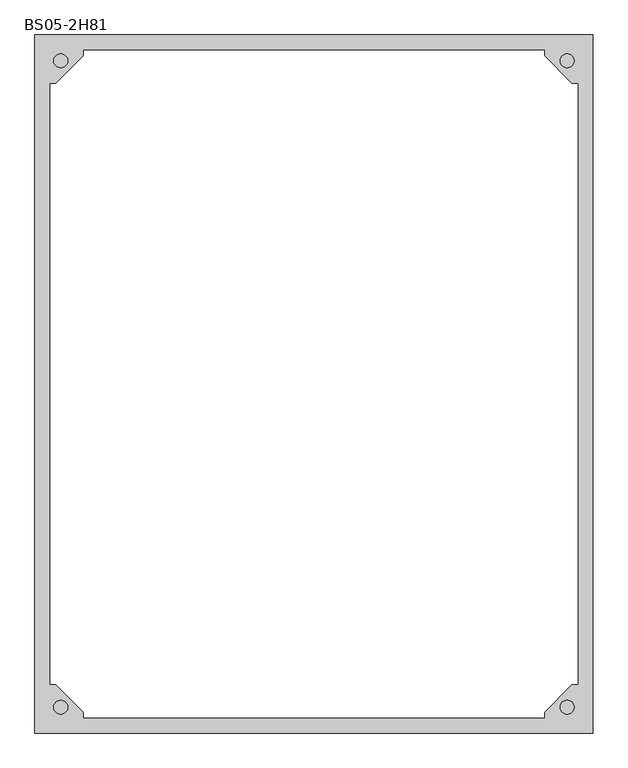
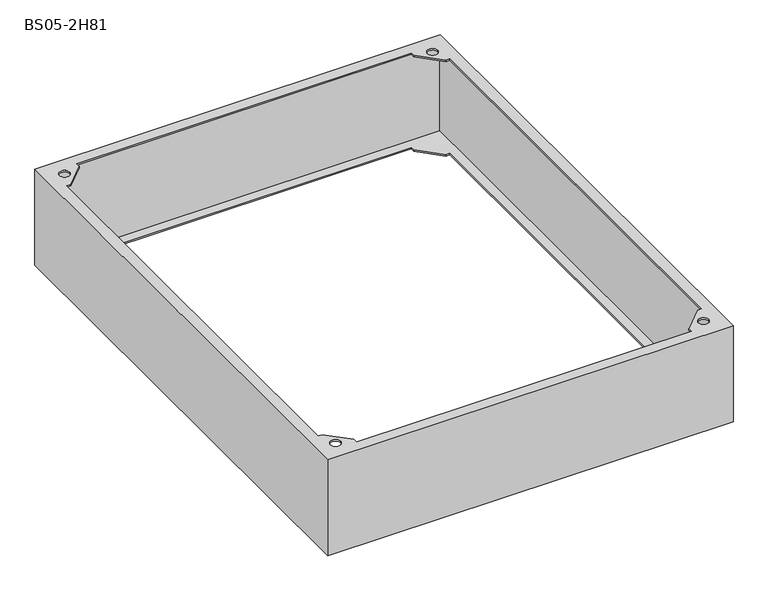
"""IFC4 building model written with IfcOpenShell, lengths in millimetres: proxy geometry, Цоколь для напольных шкафов : BS05-2H81."""

from ifc_helpers import new_model, si_unit, frame, origin, place, context, project, spatial, polyline, circle_curve, source, transform, mapped, element, save
from ifc_brep_helpers import plane_surface, revolved_surface, advanced_brep


def bs05_2h81_4a389308(model_context):
    return source(origin(), model_context, "Body", "AdvancedBrep", [
        advanced_brep(
        [(400.0, -500.0, 200.0), (400.0, -500.0, 197.0), (400.0, -500.0, 3.0), (400.0, -500.0, 0.0), (400.0, 500.0, 0.0), (400.0, 500.0, 3.0), (400.0, 500.0, 197.0), (400.0, 500.0, 200.0), (378.0, 430.0, 0.0), (378.0, -430.0, 0.0), (378.0, -430.0, 3.0), (378.0, 430.0, 3.0), (397.0, 497.0, 197.0), (397.0, 497.0, 3.0), (397.0, -497.0, 3.0), (397.0, -497.0, 197.0), (378.0, 430.0, 197.0), (378.0, -430.0, 197.0), (378.0, -430.0, 200.0), (378.0, 430.0, 200.0), (-400.0, -500.0, 200.0), (-400.0, -500.0, 197.0), (-400.0, -500.0, 3.0), (-400.0, -500.0, 0.0), (330.0, -478.0, 0.0), (-330.0, -478.0, 0.0), (-330.0, -478.0, 3.0), (330.0, -478.0, 3.0), (-397.0, -497.0, 3.0), (-397.0, -497.0, 197.0), (330.0, -478.0, 197.0), (-330.0, -478.0, 197.0), (-330.0, -478.0, 200.0), (330.0, -478.0, 200.0), (-400.0, 500.0, 200.0), (-400.0, 500.0, 197.0), (-400.0, 500.0, 3.0), (-400.0, 500.0, 0.0), (-378.0, -430.0, 0.0), (-378.0, 430.0, 0.0), (-378.0, 430.0, 3.0), (-378.0, -430.0, 3.0), (-397.0, 497.0, 3.0), (-397.0, 497.0, 197.0), (-378.0, -430.0, 197.0), (-378.0, 430.0, 197.0), (-378.0, 430.0, 200.0), (-378.0, -430.0, 200.0), (-330.0, -470.0, 200.0), (-370.0, -430.0, 200.0), (-370.0, 430.0, 200.0), (-330.0, 470.0, 200.0), (-330.0, 478.0, 200.0), (330.0, 478.0, 200.0), (330.0, 470.0, 200.0), (370.0, 430.0, 200.0), (370.0, -430.0, 200.0), (330.0, -470.0, 200.0), (-352.9289322, -462.9289322, 200.0), (-372.9289322, -462.9289322, 200.0), (372.9289322, -462.9289322, 200.0), (352.9289322, -462.9289322, 200.0), (-352.9289322, 462.9289322, 200.0), (-372.9289322, 462.9289322, 200.0), (372.9289322, 462.9289322, 200.0), (352.9289322, 462.9289322, 200.0), (370.0, 430.0, 0.0), (330.0, 470.0, 0.0), (330.0, 478.0, 0.0), (-330.0, 478.0, 0.0), (-330.0, 470.0, 0.0), (-370.0, 430.0, 0.0), (-370.0, -430.0, 0.0), (-330.0, -470.0, 0.0), (330.0, -470.0, 0.0), (370.0, -430.0, 0.0), (330.0, 478.0, 3.0), (-330.0, 478.0, 3.0), (370.0, -430.0, 3.0), (330.0, -470.0, 3.0), (-330.0, -470.0, 3.0), (-370.0, -430.0, 3.0), (-370.0, 430.0, 3.0), (-330.0, 470.0, 3.0), (330.0, 470.0, 3.0), (370.0, 430.0, 3.0), (-370.0, -430.0, 197.0), (-330.0, -470.0, 197.0), (330.0, -470.0, 197.0), (370.0, -430.0, 197.0), (370.0, 430.0, 197.0), (330.0, 470.0, 197.0), (330.0, 478.0, 197.0), (-330.0, 478.0, 197.0), (-330.0, 470.0, 197.0), (-370.0, 430.0, 197.0), (-352.9289322, -462.9289322, 197.0), (-372.9289322, -462.9289322, 197.0), (372.9289322, -462.9289322, 197.0), (352.9289322, -462.9289322, 197.0), (-352.9289322, 462.9289322, 197.0), (-372.9289322, 462.9289322, 197.0), (372.9289322, 462.9289322, 197.0), (352.9289322, 462.9289322, 197.0)],
        [
            (0, 1),
            (1, 2),
            (2, 3),
            (3, 4),
            (4, 5),
            (5, 6),
            (6, 7),
            (7, 0),
            (8, 9),
            (9, 10),
            (10, 11),
            (11, 8),
            (12, 13),
            (13, 14),
            (14, 15),
            (15, 12),
            (16, 17),
            (17, 18),
            (18, 19),
            (19, 16),
            (0, 20),
            (20, 21),
            (21, 22),
            (22, 23),
            (23, 3),
            (24, 25),
            (25, 26),
            (26, 27),
            (27, 24),
            (14, 28),
            (28, 29),
            (29, 15),
            (30, 31),
            (31, 32),
            (32, 33),
            (33, 30),
            (20, 34),
            (34, 35),
            (35, 36),
            (36, 37),
            (37, 23),
            (38, 39),
            (39, 40),
            (40, 41),
            (41, 38),
            (28, 42),
            (42, 43),
            (43, 29),
            (44, 45),
            (45, 46),
            (46, 47),
            (47, 44),
            (7, 34),
            (48, 49),
            (49, 47),
            (46, 50),
            (50, 51),
            (51, 52),
            (52, 53),
            (53, 54),
            (54, 55),
            (55, 19),
            (18, 56),
            (56, 57),
            (57, 33),
            (32, 48),
            (58, 59, circle_curve(frame((-362.9289322, -462.9289322, 200.0), z_axis=(0.0, 0.0, -1.0), x_axis=(-1.0, 0.0, 0.0)), 10.0)),
            (59, 58, circle_curve(frame((-362.9289322, -462.9289322, 200.0), z_axis=(0.0, 0.0, -1.0), x_axis=(-1.0, 0.0, 0.0)), 10.0)),
            (60, 61, circle_curve(frame((362.9289322, -462.9289322, 200.0), z_axis=(0.0, 0.0, -1.0), x_axis=(-1.0, 0.0, 0.0)), 10.0)),
            (61, 60, circle_curve(frame((362.9289322, -462.9289322, 200.0), z_axis=(0.0, 0.0, -1.0), x_axis=(-1.0, 0.0, 0.0)), 10.0)),
            (62, 63, circle_curve(frame((-362.9289322, 462.9289322, 200.0), z_axis=(0.0, 0.0, -1.0), x_axis=(-1.0, 0.0, 0.0)), 10.0)),
            (63, 62, circle_curve(frame((-362.9289322, 462.9289322, 200.0), z_axis=(0.0, 0.0, -1.0), x_axis=(-1.0, 0.0, 0.0)), 10.0)),
            (64, 65, circle_curve(frame((362.9289322, 462.9289322, 200.0), z_axis=(0.0, 0.0, -1.0), x_axis=(-1.0, 0.0, 0.0)), 10.0)),
            (65, 64, circle_curve(frame((362.9289322, 462.9289322, 200.0), z_axis=(0.0, 0.0, -1.0), x_axis=(-1.0, 0.0, 0.0)), 10.0)),
            (4, 37),
            (8, 66),
            (66, 67),
            (67, 68),
            (68, 69),
            (69, 70),
            (70, 71),
            (71, 39),
            (38, 72),
            (72, 73),
            (73, 25),
            (24, 74),
            (74, 75),
            (75, 9),
            (68, 76),
            (76, 77),
            (77, 69),
            (13, 42),
            (10, 78),
            (78, 79),
            (79, 27),
            (26, 80),
            (80, 81),
            (81, 41),
            (40, 82),
            (82, 83),
            (83, 77),
            (76, 84),
            (84, 85),
            (85, 11),
            (12, 43),
            (86, 87),
            (87, 31),
            (30, 88),
            (88, 89),
            (89, 17),
            (16, 90),
            (90, 91),
            (91, 92),
            (92, 93),
            (93, 94),
            (94, 95),
            (95, 45),
            (44, 86),
            (96, 97, circle_curve(frame((-362.9289322, -462.9289322, 197.0), z_axis=(0.0, 0.0, 1.0), x_axis=(-1.0, 0.0, 0.0)), 10.0)),
            (97, 96, circle_curve(frame((-362.9289322, -462.9289322, 197.0), z_axis=(0.0, 0.0, 1.0), x_axis=(-1.0, 0.0, 0.0)), 10.0)),
            (98, 99, circle_curve(frame((362.9289322, -462.9289322, 197.0), z_axis=(0.0, 0.0, 1.0), x_axis=(-1.0, 0.0, 0.0)), 10.0)),
            (99, 98, circle_curve(frame((362.9289322, -462.9289322, 197.0), z_axis=(0.0, 0.0, 1.0), x_axis=(-1.0, 0.0, 0.0)), 10.0)),
            (100, 101, circle_curve(frame((-362.9289322, 462.9289322, 197.0), z_axis=(0.0, 0.0, 1.0), x_axis=(-1.0, 0.0, 0.0)), 10.0)),
            (101, 100, circle_curve(frame((-362.9289322, 462.9289322, 197.0), z_axis=(0.0, 0.0, 1.0), x_axis=(-1.0, 0.0, 0.0)), 10.0)),
            (102, 103, circle_curve(frame((362.9289322, 462.9289322, 197.0), z_axis=(0.0, 0.0, 1.0), x_axis=(-1.0, 0.0, 0.0)), 10.0)),
            (103, 102, circle_curve(frame((362.9289322, 462.9289322, 197.0), z_axis=(0.0, 0.0, 1.0), x_axis=(-1.0, 0.0, 0.0)), 10.0)),
            (52, 93),
            (92, 53),
            (87, 48),
            (86, 49),
            (89, 56),
            (88, 57),
            (95, 50),
            (94, 51),
            (91, 54),
            (90, 55),
            (58, 96),
            (97, 59),
            (60, 98),
            (99, 61),
            (62, 100),
            (101, 63),
            (64, 102),
            (103, 65),
            (73, 80),
            (72, 81),
            (75, 78),
            (74, 79),
            (71, 82),
            (70, 83),
            (67, 84),
            (66, 85),
        ],
        [
            plane_surface(frame((400.0, 500.0, 200.0), z_axis=(1.0, 0.0, 0.0), x_axis=(0.0, -1.0, 0.0))),
            plane_surface(frame((378.0, 478.0, 0.0), z_axis=(-1.0, 0.0, 0.0), x_axis=(0.0, -1.0, 0.0))),
            plane_surface(frame((397.0, 497.0, 3.0), z_axis=(-1.0, 0.0, 0.0), x_axis=(0.0, -1.0, 0.0))),
            plane_surface(frame((378.0, 478.0, 197.0), z_axis=(-1.0, 0.0, 0.0), x_axis=(0.0, -1.0, 0.0))),
            plane_surface(frame((400.0, -500.0, 200.0), z_axis=(0.0, -1.0, 0.0), x_axis=(-1.0, 0.0, 0.0))),
            plane_surface(frame((378.0, -478.0, 0.0), z_axis=(0.0, 1.0, 0.0), x_axis=(-1.0, 0.0, 0.0))),
            plane_surface(frame((397.0, -497.0, 3.0), z_axis=(0.0, 1.0, 0.0), x_axis=(-1.0, 0.0, 0.0))),
            plane_surface(frame((378.0, -478.0, 197.0), z_axis=(0.0, 1.0, 0.0), x_axis=(-1.0, 0.0, 0.0))),
            plane_surface(frame((-400.0, -500.0, 200.0), z_axis=(-1.0, 0.0, 0.0), x_axis=(0.0, 1.0, 0.0))),
            plane_surface(frame((-378.0, -478.0, 0.0), z_axis=(1.0, 0.0, 0.0), x_axis=(0.0, 1.0, 0.0))),
            plane_surface(frame((-397.0, -497.0, 3.0), z_axis=(1.0, 0.0, 0.0), x_axis=(0.0, 1.0, 0.0))),
            plane_surface(frame((-378.0, -478.0, 197.0), z_axis=(1.0, 0.0, 0.0), x_axis=(0.0, 1.0, 0.0))),
            plane_surface(frame((-378.0, 478.0, 200.0), z_axis=(0.0, 0.0, 1.0), x_axis=(1.0, 0.0, 0.0))),
            plane_surface(frame((-400.0, 500.0, 200.0), z_axis=(0.0, 1.0, 0.0), x_axis=(1.0, 0.0, 0.0))),
            plane_surface(frame((-400.0, 500.0, 0.0), z_axis=(0.0, 0.0, -1.0), x_axis=(1.0, 0.0, 0.0))),
            plane_surface(frame((-378.0, 478.0, 0.0), z_axis=(0.0, -1.0, 0.0), x_axis=(1.0, 0.0, 0.0))),
            plane_surface(frame((-378.0, 478.0, 3.0), z_axis=(0.0, 0.0, 1.0), x_axis=(1.0, 0.0, 0.0))),
            plane_surface(frame((-397.0, 497.0, 3.0), z_axis=(0.0, -1.0, 0.0), x_axis=(1.0, 0.0, 0.0))),
            plane_surface(frame((-397.0, 497.0, 197.0), z_axis=(0.0, 0.0, -1.0), x_axis=(1.0, 0.0, 0.0))),
            plane_surface(frame((-378.0, 478.0, 197.0), z_axis=(0.0, -1.0, 0.0), x_axis=(1.0, 0.0, 0.0))),
            plane_surface(frame((-330.0, -500.0, 200.0), z_axis=(1.0, 0.0, 0.0), x_axis=(0.0, 0.0, -1.0))),
            plane_surface(frame((-330.0, -470.0, 200.0), z_axis=(0.7071067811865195, 0.7071067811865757, 0.0), x_axis=(0.0, 0.0, -1.0))),
            plane_surface(frame((-370.0, -430.0, 200.0), z_axis=(0.0, 1.0, 0.0), x_axis=(0.0, 0.0, -1.0))),
            plane_surface(frame((400.0, -430.0, 200.0), z_axis=(0.0, 1.0, 0.0), x_axis=(0.0, 0.0, -1.0))),
            plane_surface(frame((370.0, -430.0, 200.0), z_axis=(-0.7071067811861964, 0.7071067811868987, 0.0), x_axis=(0.0, 0.0, -1.0))),
            plane_surface(frame((330.0, -470.0, 200.0), z_axis=(-1.0, 0.0, 0.0), x_axis=(0.0, 0.0, -1.0))),
            plane_surface(frame((-400.0, 430.0, 200.0), z_axis=(0.0, -1.0, 0.0), x_axis=(0.0, 0.0, -1.0))),
            plane_surface(frame((-370.0, 430.0, 200.0), z_axis=(0.7071067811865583, -0.7071067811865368, 0.0), x_axis=(0.0, 0.0, -1.0))),
            plane_surface(frame((-330.0, 470.0, 200.0), z_axis=(1.0, 0.0, 0.0), x_axis=(0.0, 0.0, -1.0))),
            plane_surface(frame((330.0, 500.0, 200.0), z_axis=(-1.0, 0.0, 0.0), x_axis=(0.0, 0.0, -1.0))),
            plane_surface(frame((330.0, 470.0, 200.0), z_axis=(-0.7071067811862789, -0.7071067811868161, 0.0), x_axis=(0.0, 0.0, -1.0))),
            plane_surface(frame((370.0, 430.0, 200.0), z_axis=(0.0, -1.0, 0.0), x_axis=(0.0, 0.0, -1.0))),
            revolved_surface(polyline([(-372.9289322, -462.9289322, 197.0), (-372.9289322, -462.9289322, 200.0)]), (-362.9289322, -462.9289322, 200.0), (0.0, 0.0, -1.0)),
            revolved_surface(polyline([(352.9289322, -462.9289322, 197.0), (352.9289322, -462.9289322, 200.0)]), (362.9289322, -462.9289322, 200.0), (0.0, 0.0, -1.0)),
            revolved_surface(polyline([(-372.9289322, 462.9289322, 197.0), (-372.9289322, 462.9289322, 200.0)]), (-362.9289322, 462.9289322, 200.0), (0.0, 0.0, -1.0)),
            revolved_surface(polyline([(352.9289322, 462.9289322, 197.0), (352.9289322, 462.9289322, 200.0)]), (362.9289322, 462.9289322, 200.0), (0.0, 0.0, -1.0)),
            plane_surface(frame((-330.0, -500.0, 3.0), z_axis=(1.0, 0.0, 0.0), x_axis=(0.0, 0.0, -1.0))),
            plane_surface(frame((-330.0, -470.0, 3.0), z_axis=(0.7071067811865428, 0.7071067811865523, 0.0), x_axis=(0.0, 0.0, -1.0))),
            plane_surface(frame((-370.0, -430.0, 3.0), z_axis=(0.0, 1.0, 0.0), x_axis=(0.0, 0.0, -1.0))),
            plane_surface(frame((400.0, -430.0, 3.0), z_axis=(0.0, 1.0, 0.0), x_axis=(0.0, 0.0, -1.0))),
            plane_surface(frame((370.0, -430.0, 3.0), z_axis=(-0.7071067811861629, 0.7071067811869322, 0.0), x_axis=(0.0, 0.0, -1.0))),
            plane_surface(frame((330.0, -470.0, 3.0), z_axis=(-1.0, 0.0, 0.0), x_axis=(0.0, 0.0, -1.0))),
            plane_surface(frame((-400.0, 430.0, 3.0), z_axis=(0.0, -1.0, 0.0), x_axis=(0.0, 0.0, -1.0))),
            plane_surface(frame((-370.0, 430.0, 3.0), z_axis=(0.7071067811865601, -0.7071067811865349, 0.0), x_axis=(0.0, 0.0, -1.0))),
            plane_surface(frame((-330.0, 470.0, 3.0), z_axis=(1.0, 0.0, 0.0), x_axis=(0.0, 0.0, -1.0))),
            plane_surface(frame((330.0, 500.0, 3.0), z_axis=(-1.0, 0.0, 0.0), x_axis=(0.0, 0.0, -1.0))),
            plane_surface(frame((330.0, 470.0, 3.0), z_axis=(-0.7071067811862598, -0.7071067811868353, 0.0), x_axis=(0.0, 0.0, -1.0))),
            plane_surface(frame((370.0, 430.0, 3.0), z_axis=(0.0, -1.0, 0.0), x_axis=(0.0, 0.0, -1.0))),
        ],
        [
            (0, [[1, 2, 3, 4, 5, 6, 7, 8]]),
            (1, [[9, 10, 11, 12]]),
            (2, [[13, 14, 15, 16]]),
            (3, [[17, 18, 19, 20]]),
            (4, [[-1, 21, 22, 23, 24, 25, -3, -2]]),
            (5, [[26, 27, 28, 29]]),
            (6, [[-15, 30, 31, 32]]),
            (7, [[33, 34, 35, 36]]),
            (8, [[-22, 37, 38, 39, 40, 41, -24, -23]]),
            (9, [[42, 43, 44, 45]]),
            (10, [[-31, 46, 47, 48]]),
            (11, [[49, 50, 51, 52]]),
            (12, [[-8, 53, -37, -21], [54, 55, -51, 56, 57, 58, 59, 60, 61, 62, -19, 63, 64, 65, -35, 66], [67, 68], [69, 70], [71, 72], [73, 74]]),
            (13, [[-38, -53, -7, -6, -5, 75, -40, -39]]),
            (14, [[-4, -25, -41, -75], [-9, 76, 77, 78, 79, 80, 81, 82, -42, 83, 84, 85, -26, 86, 87, 88]]),
            (15, [[-79, 89, 90, 91]]),
            (16, [[-14, 92, -46, -30], [-11, 93, 94, 95, -28, 96, 97, 98, -44, 99, 100, 101, -90, 102, 103, 104]]),
            (17, [[-92, -13, 105, -47]]),
            (18, [[-32, -48, -105, -16], [106, 107, -33, 108, 109, 110, -17, 111, 112, 113, 114, 115, 116, 117, -49, 118], [119, 120], [121, 122], [123, 124], [125, 126]]),
            (19, [[-59, 127, -114, 128]]),
            (20, [[129, -66, -34, -107]]),
            (21, [[-54, -129, -106, 130]]),
            (22, [[-130, -118, -52, -55]]),
            (23, [[131, -63, -18, -110]]),
            (24, [[-64, -131, -109, 132]]),
            (25, [[-132, -108, -36, -65]]),
            (26, [[133, -56, -50, -117]]),
            (27, [[-57, -133, -116, 134]]),
            (28, [[-134, -115, -127, -58]]),
            (29, [[135, -60, -128, -113]]),
            (30, [[-61, -135, -112, 136]]),
            (31, [[-136, -111, -20, -62]]),
            (32, [[-67, 137, -120, 138]]),
            (32, [[-68, -138, -119, -137]]),
            (33, [[-69, 139, -122, 140]]),
            (33, [[-70, -140, -121, -139]]),
            (34, [[-71, 141, -124, 142]]),
            (34, [[-72, -142, -123, -141]]),
            (35, [[-73, 143, -126, 144]]),
            (35, [[-74, -144, -125, -143]]),
            (36, [[145, -96, -27, -85]]),
            (37, [[-97, -145, -84, 146]]),
            (38, [[-146, -83, -45, -98]]),
            (39, [[147, -93, -10, -88]]),
            (40, [[-94, -147, -87, 148]]),
            (41, [[-148, -86, -29, -95]]),
            (42, [[149, -99, -43, -82]]),
            (43, [[-100, -149, -81, 150]]),
            (44, [[-150, -80, -91, -101]]),
            (45, [[151, -102, -89, -78]]),
            (46, [[-103, -151, -77, 152]]),
            (47, [[-152, -76, -12, -104]]),
        ],
    ),
    ])


if __name__ == "__main__":
    model = new_model("IFC4")
    model_context = context("Model", 3, world=origin())
    ifc_project = project(units=[si_unit("LENGTHUNIT", "METRE", prefix="MILLI")], contexts=[model_context])
    site = spatial("IfcSite", under=ifc_project)
    building = spatial("IfcBuilding", under=site)
    placement = place(None, origin())
    bs05_2h81_shape = bs05_2h81_4a389308(model_context)
    element("IfcBuildingElementProxy", 1, Name="Цоколь для напольных шкафов : BS05-2H81", ObjectType="Цоколь для напольных шкафов : BS05-2H81", at=placement, inside=building, context=model_context, shape_type="MappedRepresentation", body=[
        mapped(bs05_2h81_shape, transform((0.0, 0.0, 0.0), x_axis=(1.0, 0.0, 0.0), y_axis=(0.0, 1.0, 0.0), z_axis=(0.0, 0.0, 1.0))),
    ])
    save(model, "model.ifc")
